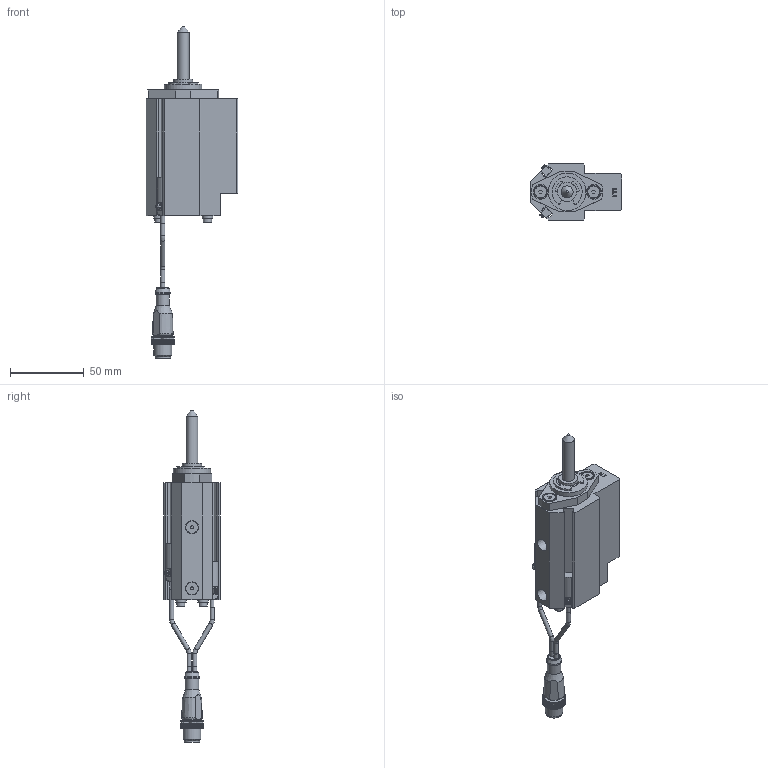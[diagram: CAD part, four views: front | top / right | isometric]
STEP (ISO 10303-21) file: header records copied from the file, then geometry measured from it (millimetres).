
FILE_DESCRIPTION(/* description */ ('NAAMS FLOATING MICRO PIN'),/* implementation_level */ '2;1');
FILE_NAME(/* name */ 'C:\Vault Workspace\CAD\Welker\Shot Pin\NMP\NMP080032EANL3.stp',/* time_stamp */ '2021-01-27T08:43:38-05:00',/* author */ ('WELKER'),/* organization */ (''),/* preprocessor_version */ 'ST-DEVELOPER v18.1',/* originating_system */ 'Autodesk Inventor 2020',/* authorisation */ '');
FILE_SCHEMA (('AUTOMOTIVE_DESIGN { 1 0 10303 214 3 1 1 }'));
Length unit declared in the file: millimetre
Products named in the file (16): NMPL01; NMP L3 SWITCH; L3 Connector; L3 Sensor 1; L3 Sensor 2; L3 Sensor cable; L3 Sensor cable 2; M3X0.5-8 SHCS; NL3; NMPE06; NMPE03; NMPE05-DIA-LENGTH; 985432A218; NMPE01E-PORT; RMPE02; M5X5 SHOULDER
Assembly tree (22 placements, depth 3):
  NMPL01
    NMP L3 SWITCH
      L3 Connector
      L3 Sensor 1
      L3 Sensor 2
      L3 Sensor cable
      L3 Sensor cable 2
    M3X0.5-8 SHCS  x4
    NL3  x4
    NMPE06
    NMPE03
    NMPE05-DIA-LENGTH
    985432A218
    NMPE01E-PORT
    RMPE02
    M5X5 SHOULDER  x2
Bounding box: 62 x 38.1 x 224.73 mm (x, y, z)
Volume: 113904.3 mm3; surface area: 44980.5 mm2
Topology: 21 solids, 21 shells, 748 faces, 2030 edges, 1357 vertices
Faces by surface type: plane 553, cylinder 144, cone 35, torus 11, sphere 3, bspline 2
Full cylindrical faces by diameter (mm): 2 x2, 2.459 x4, 2.9 x10, 3 x5, 3.242 x2, 3.4 x4, 4 x2, 5 x6, 5.5 x4, 6.647 x2, 7 x4, 8 x3, 8.3 x2, 9 x3, 10 x3, 10.4 x1, 10.5 x1, 12 x1, 13 x3, 16 x2, 19.05 x3, 21 x1, 22.5 x1, 23.672 x1, 24 x1, 25.4 x1, 25.5 x1, 26.5 x1, 28.677 x1, 29.21 x1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
Entity records: 22859 total; most frequent: CARTESIAN_POINT 4181, ORIENTED_EDGE 3752, DIRECTION 3736, EDGE_CURVE 1876, LINE 1388, VECTOR 1388, VERTEX_POINT 1262, AXIS2_PLACEMENT_3D 1174
